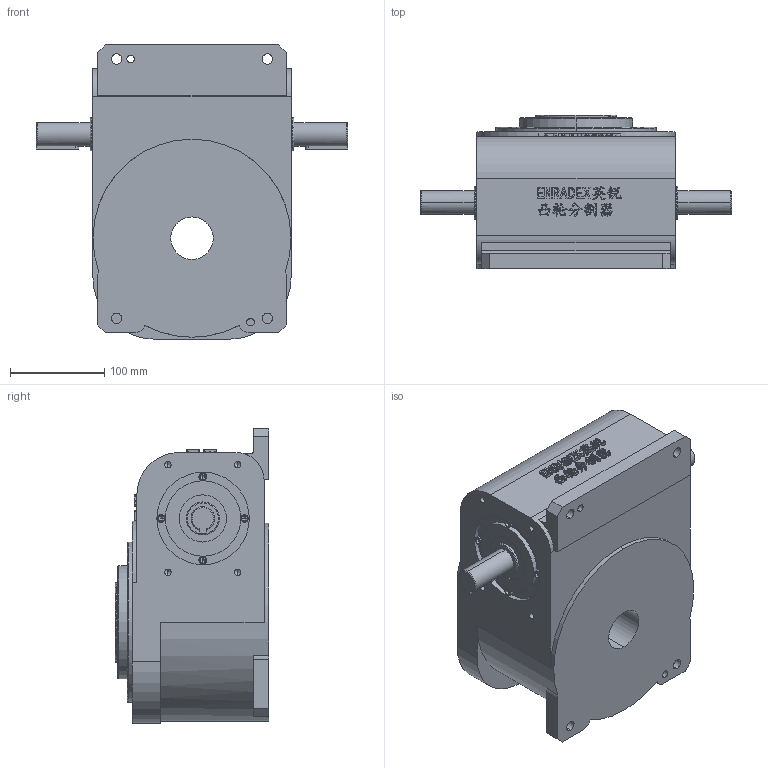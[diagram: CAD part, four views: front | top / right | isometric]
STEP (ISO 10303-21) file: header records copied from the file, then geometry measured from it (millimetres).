
FILE_DESCRIPTION (( 'STEP AP214' ), '1' );
FILE_NAME ('ER-RU110DA英锐凸轮分割器3D固定盘壳体和法兰面加销孔标准图纸(电话15062628977)AA.STEP', '2022-08-10T07:26:43', ( '微软用户' ), ( '微软中国' ), 'SwSTEP 2.0', 'SolidWorks 2017', '' );
FILE_SCHEMA (( 'AUTOMOTIVE_DESIGN' ));
Length unit declared in the file: millimetre
Products named in the file (1): ER-RU110DA英锐凸轮分割器3D固定盘壳体和法兰面加销孔标准图纸(电话15062628977)AA
Bounding box: 330 x 163 x 312 mm (x, y, z)
Volume: 7946217.9 mm3; surface area: 334948.4 mm2
Topology: 9 solids, 9 shells, 1050 faces, 2573 edges, 1648 vertices
Faces by surface type: plane 501, bspline 308, cylinder 174, cone 44, torus 23
Entity records: 68217 total; most frequent: CARTESIAN_POINT 36427, ORIENTED_EDGE 5058, DIRECTION 3816, EDGE_CURVE 2529, VERTEX_POINT 1648, VECTOR 1484, LINE 1484, EDGE_LOOP 1243
